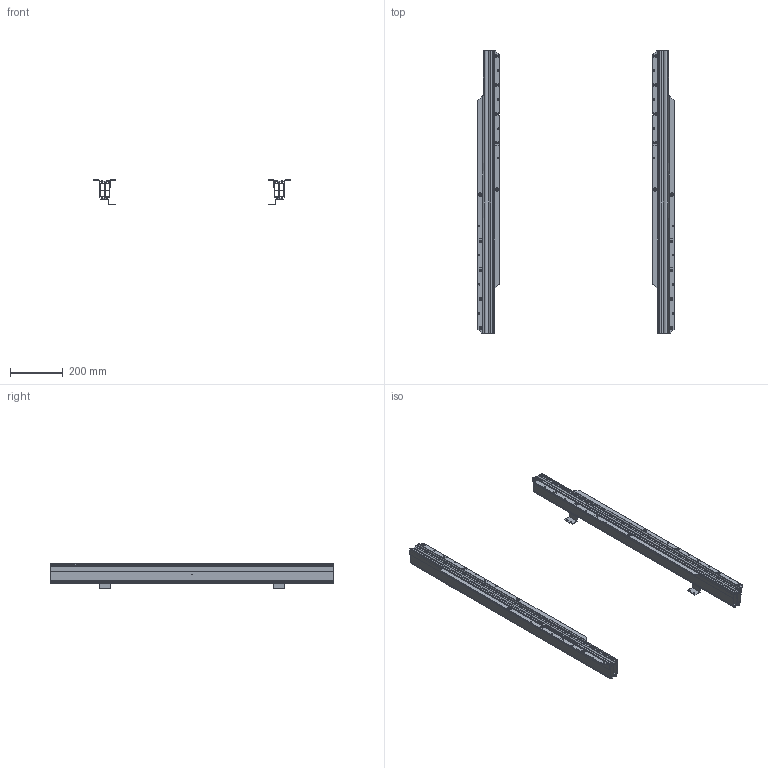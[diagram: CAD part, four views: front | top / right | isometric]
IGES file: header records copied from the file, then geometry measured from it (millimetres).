
Start section: Data from Parasolid IGES Translator 15.0.47, Copyright(c) 2006 Siemens P LM Software. All Rights Reserved.
Global section: file name: 9133042.igs; native system:  By UGS Corp.; preprocessor: XPlus GENERIC/IGES 3.0; author: Noname; organization: Noname; date: 20140618.115126; units: millimetre
Bounding box: 744 x 1070 x 96.2 mm (x, y, z)
Surface area: 1464840.2 mm2 (no closed solid volume)
Topology: 0 solids, 0 shells, 344 faces, 1928 edges, 1840 vertices
Faces by surface type: extrusion 236, revolution 108
